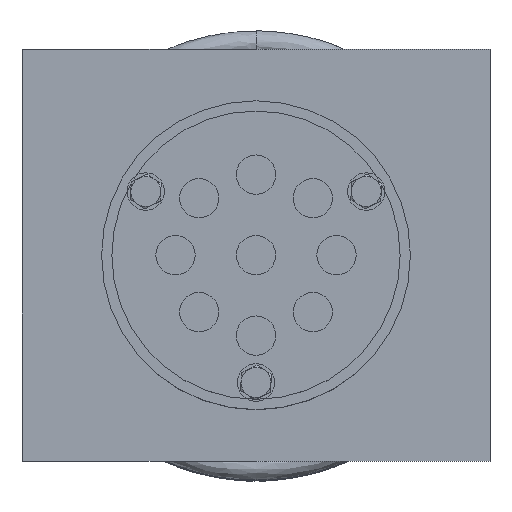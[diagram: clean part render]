
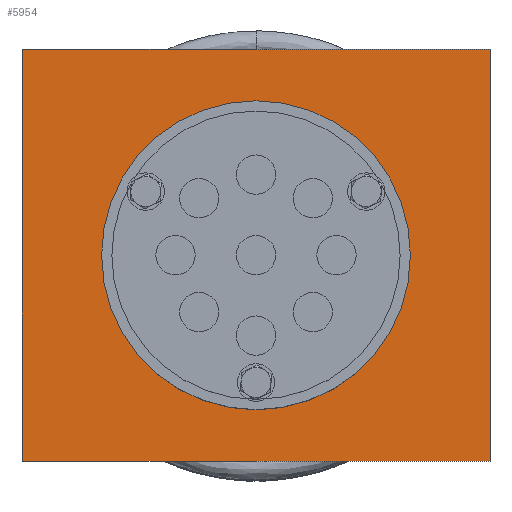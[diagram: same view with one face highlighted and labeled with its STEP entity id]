
A CAD part, top view. The second image highlights one B-rep face of the part: STEP entity #5954.
In plain terms, the highlighted planar face has unit normal (0, 0, 1).
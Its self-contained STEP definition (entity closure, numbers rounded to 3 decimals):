
#491=FACE_BOUND('',#1159,.T.);
#593=PLANE('',#6368);
#787=FACE_OUTER_BOUND('',#1158,.T.);
#1158=EDGE_LOOP('',(#3903,#3904,#3905,#3906));
#1159=EDGE_LOOP('',(#3907));
#1574=LINE('',#10955,#1922);
#1575=LINE('',#10957,#1923);
#1576=LINE('',#10959,#1924);
#1577=LINE('',#10960,#1925);
#1922=VECTOR('',#6794,10.);
#1923=VECTOR('',#6795,10.);
#1924=VECTOR('',#6796,10.);
#1925=VECTOR('',#6797,10.);
#2269=CIRCLE('',#6369,56.5);
#2438=VERTEX_POINT('',#10953);
#2439=VERTEX_POINT('',#10954);
#2440=VERTEX_POINT('',#10956);
#2441=VERTEX_POINT('',#10958);
#2442=VERTEX_POINT('',#10961);
#3011=EDGE_CURVE('',#2438,#2439,#1574,.T.);
#3012=EDGE_CURVE('',#2440,#2438,#1575,.T.);
#3013=EDGE_CURVE('',#2441,#2440,#1576,.T.);
#3014=EDGE_CURVE('',#2439,#2441,#1577,.T.);
#3015=EDGE_CURVE('',#2442,#2442,#2269,.T.);
#3903=ORIENTED_EDGE('',*,*,#3011,.F.);
#3904=ORIENTED_EDGE('',*,*,#3012,.F.);
#3905=ORIENTED_EDGE('',*,*,#3013,.F.);
#3906=ORIENTED_EDGE('',*,*,#3014,.F.);
#3907=ORIENTED_EDGE('',*,*,#3015,.T.);
#5954=ADVANCED_FACE('',(#787,#491),#593,.T.);
#6368=AXIS2_PLACEMENT_3D('',#10952,#6792,#6793);
#6369=AXIS2_PLACEMENT_3D('',#10962,#6798,#6799);
#6792=DIRECTION('center_axis',(0.,0.,
1.));
#6793=DIRECTION('ref_axis',(1.,0.,0.));
#6794=DIRECTION('',(0.,-1.,0.));
#6795=DIRECTION('',(1.,0.,0.));
#6796=DIRECTION('',(0.,1.,0.));
#6797=DIRECTION('',(-1.,0.,0.));
#6798=DIRECTION('center_axis',(0.,0.,
-1.));
#6799=DIRECTION('ref_axis',(1.,0.,0.));
#10952=CARTESIAN_POINT('Origin',(0.,0.,
0.));
#10953=CARTESIAN_POINT('',(125.,110.,0.));
#10954=CARTESIAN_POINT('',(125.,-110.,0.));
#10955=CARTESIAN_POINT('',(125.,110.,0.));
#10956=CARTESIAN_POINT('',(-125.,110.,0.));
#10957=CARTESIAN_POINT('',(-125.,110.,0.));
#10958=CARTESIAN_POINT('',(-125.,-110.,0.));
#10959=CARTESIAN_POINT('',(-125.,-110.,0.));
#10960=CARTESIAN_POINT('',(125.,-110.,0.));
#10961=CARTESIAN_POINT('',(-56.5,0.,0.));
#10962=CARTESIAN_POINT('Origin',(0.,0.,
0.));
